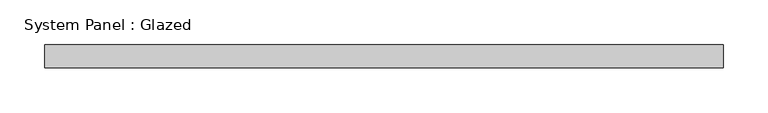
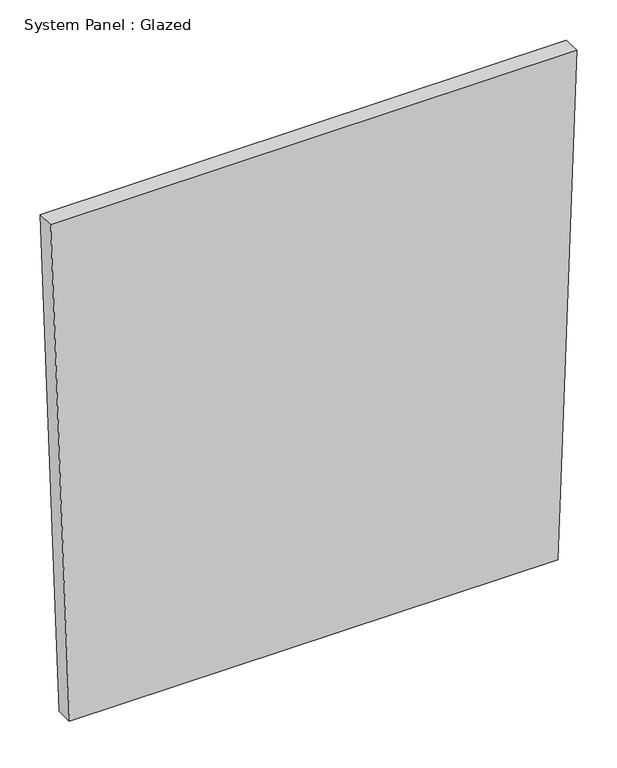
"""IFC4 building model written with IfcOpenShell, lengths in millimetres: plate geometry, System Panel : Glazed."""

from ifc_helpers import new_model, si_unit, frame, origin, place, context, project, spatial, polyline, outline, extrude, source, transform, mapped, element, save


def system_panel_glazed_8fc64467(model_context):
    return source(origin(), model_context, "Body", "SweptSolid", [
        extrude(outline(polyline([(0.0, -350.1347647), (0.0, 350.1347647), (761.5238602, 377.0682081), (761.5238602, -377.0682081), (0.0, -350.1347647)])), frame((0.0, -44.45, 0.0), z_axis=(0.0, 1.0, 0.0), x_axis=(0.0, 0.0, 1.0)), (0.0, 0.0, 1.0), 25.4),
    ])


if __name__ == "__main__":
    model = new_model("IFC4")
    model_context = context("Model", 3, world=origin())
    ifc_project = project(units=[si_unit("LENGTHUNIT", "METRE", prefix="MILLI")], contexts=[model_context])
    site = spatial("IfcSite", under=ifc_project)
    building = spatial("IfcBuilding", under=site)
    placement = place(None, origin())
    system_panel_glazed_shape = system_panel_glazed_8fc64467(model_context)
    element("IfcPlate", 1, ObjectType="System Panel : Glazed", at=placement, inside=building, context=model_context, shape_type="MappedRepresentation", body=[
        mapped(system_panel_glazed_shape, transform((0.0, 0.0, 0.0), x_axis=(1.0, 0.0, 0.0), y_axis=(0.0, 1.0, 0.0), z_axis=(0.0, 0.0, 1.0))),
    ])
    save(model, "model.ifc")
